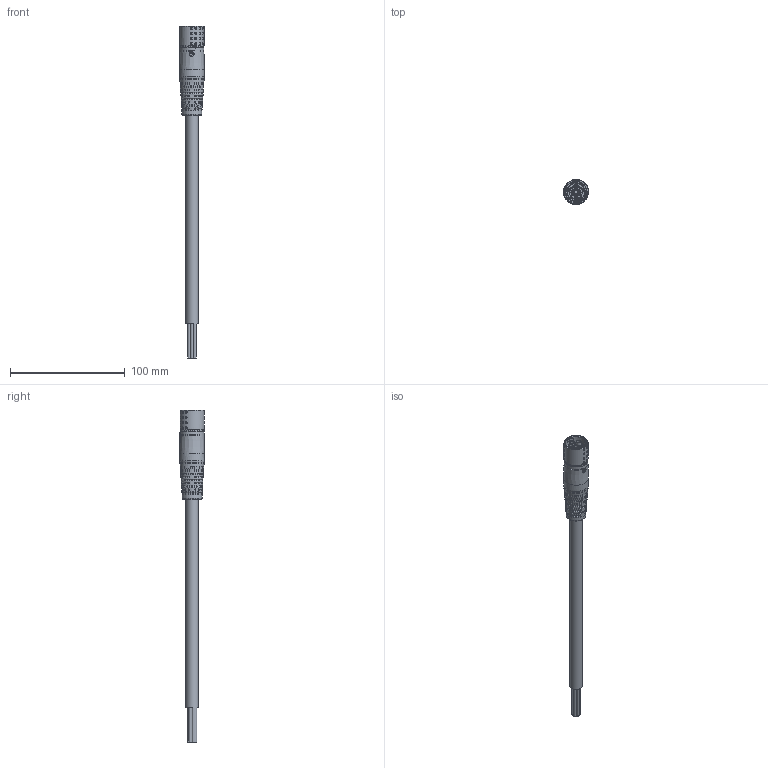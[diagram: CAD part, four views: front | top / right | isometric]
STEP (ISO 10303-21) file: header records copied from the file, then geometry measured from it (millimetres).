
FILE_DESCRIPTION (( 'STEP AP203' ), '1' );
FILE_NAME ('1138016_W-TEC_15K_GLATT_BU_STEP.STEP', '2023-09-05T06:28:44', ( '' ), ( '' ), 'SwSTEP 2.0', 'SolidWorks 2021', '' );
FILE_SCHEMA (( 'CONFIG_CONTROL_DESIGN' ));
Length unit declared in the file: millimetre
Products named in the file (1): 1138016_W-TEC_15K_GLATT_BU_STEP
Bounding box: 21.79 x 21.87 x 289.42 mm (x, y, z)
Surface area: 16949.1 mm2 (no closed solid volume)
Topology: 0 solids, 19 shells, 540 faces, 2092 edges, 1488 vertices
Faces by surface type: bspline 256, plane 145, cylinder 111, cone 25, torus 3
Full cylindrical faces by diameter (mm): 2.5 x5, 3.3 x6, 4 x1, 4.2 x3, 11.1 x1, 17.384 x1, 18.304 x1, 18.4 x1, 21.24 x1, 21.72 x1
Entity records: 40209 total; most frequent: CARTESIAN_POINT 26555, ORIENTED_EDGE 3028, EDGE_CURVE 1974, DIRECTION 1856, VERTEX_POINT 1457, B_SPLINE_CURVE_WITH_KNOTS 980, AXIS2_PLACEMENT_3D 672, EDGE_LOOP 667
